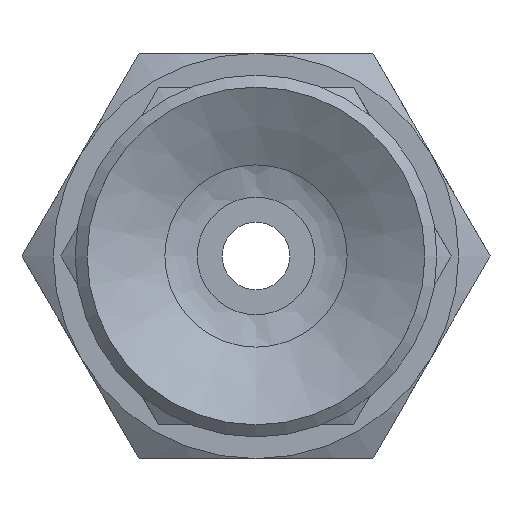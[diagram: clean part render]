
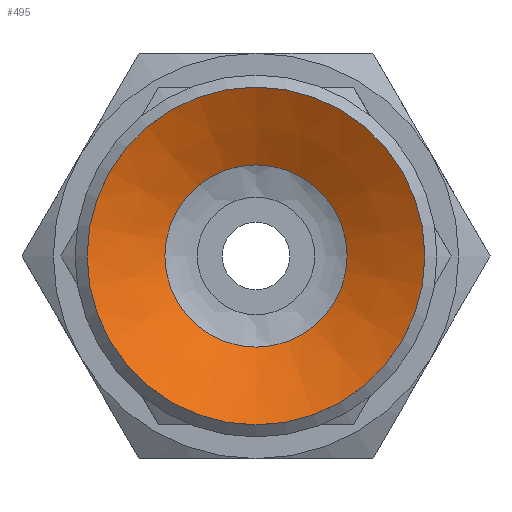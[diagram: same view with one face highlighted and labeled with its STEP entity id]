
A CAD part, front view. The second image highlights one B-rep face of the part: STEP entity #495.
In plain terms, the highlighted conical face has half-angle 61.39 degrees and reference radius 2.25 mm.
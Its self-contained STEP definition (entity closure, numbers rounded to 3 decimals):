
#495=ADVANCED_FACE('',(#741,#742),#743,.F.);
#741=FACE_BOUND('',#1024,.T.);
#742=FACE_OUTER_BOUND('',#1025,.T.);
#743=CONICAL_SURFACE('',#1026,2.25,1.071);
#1024=EDGE_LOOP('',(#1671));
#1025=EDGE_LOOP('',(#1672));
#1026=AXIS2_PLACEMENT_3D('',#1673,#1674,#1675);
#1671=ORIENTED_EDGE('',*,*,#1856,.T.);
#1672=ORIENTED_EDGE('',*,*,#1857,.T.);
#1673=CARTESIAN_POINT('',(0.0,1.5,0.0));
#1674=DIRECTION('',(-0.0,-1.0,0.));
#1675=DIRECTION('',(0.0,0.,-1.0));
#1856=EDGE_CURVE('',#2156,#2156,#2157,.T.);
#1857=EDGE_CURVE('',#2158,#2158,#2159,.T.);
#2156=VERTEX_POINT('',#2804);
#2157=CIRCLE('',#2805,2.698);
#2158=VERTEX_POINT('',#2806);
#2159=CIRCLE('',#2807,5.);
#2804=CARTESIAN_POINT('',(0.0,1.256,-2.698));
#2805=AXIS2_PLACEMENT_3D('',#3073,#3074,#3075);
#2806=CARTESIAN_POINT('',(0.0,0.,-5.));
#2807=AXIS2_PLACEMENT_3D('',#3076,#3077,#3078);
#3073=CARTESIAN_POINT('',(0.0,1.256,0.0));
#3074=DIRECTION('',(0.0,1.0,0.));
#3075=DIRECTION('',(0.0,0.,-1.0));
#3076=CARTESIAN_POINT('',(0.0,0.0,0.0));
#3077=DIRECTION('',(0.0,-1.0,0.));
#3078=DIRECTION('',(0.0,0.,-1.0));
